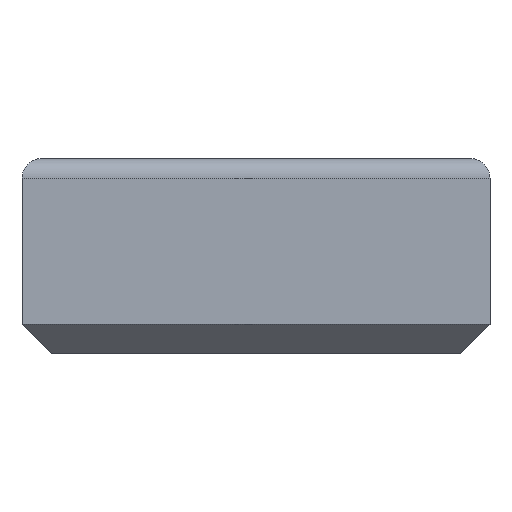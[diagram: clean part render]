
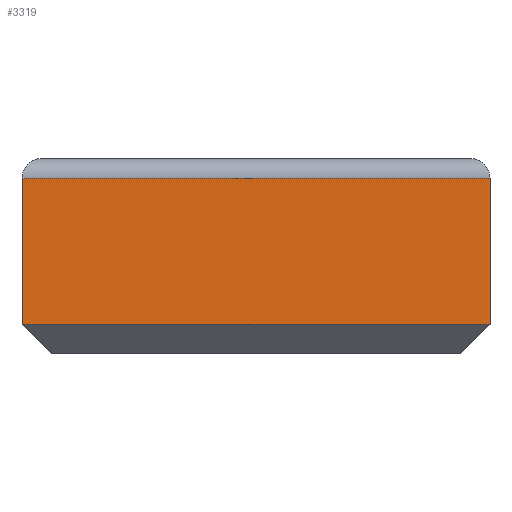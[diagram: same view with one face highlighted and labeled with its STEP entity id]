
A CAD part, front view. The second image highlights one B-rep face of the part: STEP entity #3319.
In plain terms, the highlighted planar face has unit normal (0, -1, 0).
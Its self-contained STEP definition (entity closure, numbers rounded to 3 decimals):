
#89 = ORIENTED_EDGE ( 'NONE', *, *, #1870, .F. ) ;
#322 = LINE ( 'NONE', #1758, #3478 ) ;
#401 = CARTESIAN_POINT ( 'NONE',  ( 48., 0., 18. ) ) ;
#726 = DIRECTION ( 'NONE',  ( 1., 0., 0. ) ) ;
#772 = EDGE_CURVE ( 'NONE', #2758, #1750, #2137, .T. ) ;
#908 = VERTEX_POINT ( 'NONE', #1141 ) ;
#968 = AXIS2_PLACEMENT_3D ( 'NONE', #2727, #1035, #3009 ) ;
#1035 = DIRECTION ( 'NONE',  ( 0., -1., 0. ) ) ;
#1141 = CARTESIAN_POINT ( 'NONE',  ( 0., 0., 3. ) ) ;
#1379 = ORIENTED_EDGE ( 'NONE', *, *, #2892, .F. ) ;
#1473 = EDGE_CURVE ( 'NONE', #908, #2758, #322, .T. ) ;
#1584 = PLANE ( 'NONE',  #968 ) ;
#1598 = FACE_OUTER_BOUND ( 'NONE', #2414, .T. ) ;
#1705 = ORIENTED_EDGE ( 'NONE', *, *, #1473, .T. ) ;
#1750 = VERTEX_POINT ( 'NONE', #401 ) ;
#1758 = CARTESIAN_POINT ( 'NONE',  ( 24., 0., 3. ) ) ;
#1815 = VERTEX_POINT ( 'NONE', #3243 ) ;
#1870 = EDGE_CURVE ( 'NONE', #1815, #1750, #2019, .T. ) ;
#1964 = LINE ( 'NONE', #3600, #2618 ) ;
#2019 = LINE ( 'NONE', #2413, #3507 ) ;
#2057 = ORIENTED_EDGE ( 'NONE', *, *, #772, .T. ) ;
#2137 = LINE ( 'NONE', #3203, #2870 ) ;
#2413 = CARTESIAN_POINT ( 'NONE',  ( 24., 0., 18. ) ) ;
#2414 = EDGE_LOOP ( 'NONE', ( #2057, #89, #1379, #1705 ) ) ;
#2580 = DIRECTION ( 'NONE',  ( 1., 0., 0. ) ) ;
#2618 = VECTOR ( 'NONE', #2778, 1000. ) ;
#2727 = CARTESIAN_POINT ( 'NONE',  ( 0., 0., 0. ) ) ;
#2758 = VERTEX_POINT ( 'NONE', #3150 ) ;
#2778 = DIRECTION ( 'NONE',  ( 0., 0., 1. ) ) ;
#2870 = VECTOR ( 'NONE', #2918, 1000. ) ;
#2892 = EDGE_CURVE ( 'NONE', #908, #1815, #1964, .T. ) ;
#2918 = DIRECTION ( 'NONE',  ( 0., 0., 1. ) ) ;
#3009 = DIRECTION ( 'NONE',  ( 0., 0., -1. ) ) ;
#3150 = CARTESIAN_POINT ( 'NONE',  ( 48., 0., 3. ) ) ;
#3203 = CARTESIAN_POINT ( 'NONE',  ( 48., 0., 10.5 ) ) ;
#3243 = CARTESIAN_POINT ( 'NONE',  ( 0., 0., 18. ) ) ;
#3319 = ADVANCED_FACE ( 'NONE', ( #1598 ), #1584, .T. ) ;
#3478 = VECTOR ( 'NONE', #2580, 1000. ) ;
#3507 = VECTOR ( 'NONE', #726, 1000. ) ;
#3600 = CARTESIAN_POINT ( 'NONE',  ( 0., 0., 10.5 ) ) ;
